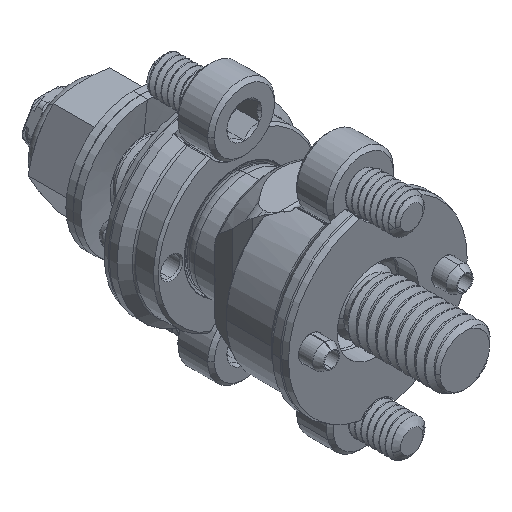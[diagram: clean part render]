
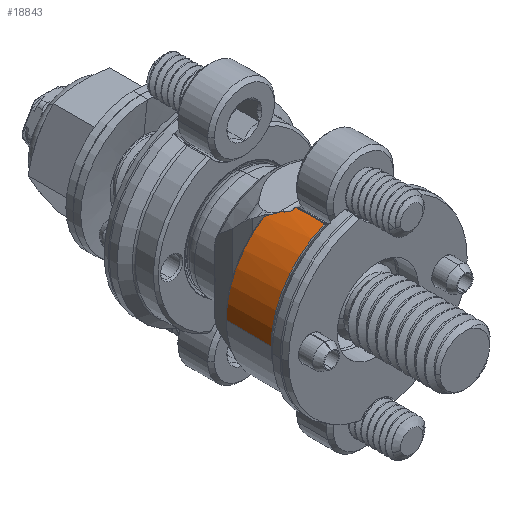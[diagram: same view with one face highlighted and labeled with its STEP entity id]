
A CAD part, isometric view. The second image highlights one B-rep face of the part: STEP entity #18843.
In plain terms, the highlighted cylindrical face has radius 7 mm (diameter 14 mm), a partial arc.
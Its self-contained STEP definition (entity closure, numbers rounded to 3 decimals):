
#34 = CARTESIAN_POINT ( 'NONE',  ( -7., 0., 0. ) ) ;
#220 = CARTESIAN_POINT ( 'NONE',  ( -2.593, -4.605, 6.502 ) ) ;
#1383 = LINE ( 'NONE', #58971, #3474 ) ;
#2020 = VECTOR ( 'NONE', #29473, 1000. ) ;
#2478 = ORIENTED_EDGE ( 'NONE', *, *, #6314, .F. ) ;
#2482 = CARTESIAN_POINT ( 'NONE',  ( -2.598, -4.6, 6.5 ) ) ;
#2526 = ORIENTED_EDGE ( 'NONE', *, *, #40021, .F. ) ;
#3063 = VERTEX_POINT ( 'NONE', #9718 ) ;
#3474 = VECTOR ( 'NONE', #5588, 1000. ) ;
#3793 = CYLINDRICAL_SURFACE ( 'NONE', #37237, 7. ) ;
#4228 = DIRECTION ( 'NONE',  ( 0., 0., -1. ) ) ;
#4567 = CARTESIAN_POINT ( 'NONE',  ( 0., -4.158, 0. ) ) ;
#5588 = DIRECTION ( 'NONE',  ( 0., 1., 0. ) ) ;
#6314 = EDGE_CURVE ( 'NONE', #62906, #3063, #31597, .T. ) ;
#7304 = CARTESIAN_POINT ( 'NONE',  ( -3.1, 0., 6.276 ) ) ;
#7804 = ORIENTED_EDGE ( 'NONE', *, *, #27450, .T. ) ;
#7818 = CARTESIAN_POINT ( 'NONE',  ( -3.866, -3.3, 5.836 ) ) ;
#8280 = CARTESIAN_POINT ( 'NONE',  ( -3.626, -3.587, 5.995 ) ) ;
#8323 = ORIENTED_EDGE ( 'NONE', *, *, #31808, .T. ) ;
#8594 = DIRECTION ( 'NONE',  ( -1., 0., 0. ) ) ;
#9207 = CARTESIAN_POINT ( 'NONE',  ( -2.583, -4.616, 6.506 ) ) ;
#9718 = CARTESIAN_POINT ( 'NONE',  ( -3.1, -4.219, 6.276 ) ) ;
#9862 = CARTESIAN_POINT ( 'NONE',  ( -2.598, -4.6, 6.5 ) ) ;
#10433 = B_SPLINE_CURVE_WITH_KNOTS ( 'NONE', 3,
 ( #18296, #19248, #58240, #28517, #14447, #33935 ),
 .UNSPECIFIED., .F., .F.,
 ( 4, 2, 4 ),
 ( 0., 0., 0.001 ),
 .UNSPECIFIED. ) ;
#12481 = VERTEX_POINT ( 'NONE', #33047 ) ;
#13483 = AXIS2_PLACEMENT_3D ( 'NONE', #23427, #13838, #14465 ) ;
#13715 = ORIENTED_EDGE ( 'NONE', *, *, #23605, .F. ) ;
#13838 = DIRECTION ( 'NONE',  ( 0., 1., 0. ) ) ;
#14255 = CARTESIAN_POINT ( 'NONE',  ( -7., -3.3, 0. ) ) ;
#14447 = CARTESIAN_POINT ( 'NONE',  ( -2.816, -4.6, 6.409 ) ) ;
#14465 = DIRECTION ( 'NONE',  ( -1., 0., 0. ) ) ;
#14688 = VECTOR ( 'NONE', #26794, 1000. ) ;
#16043 = B_SPLINE_CURVE_WITH_KNOTS ( 'NONE', 3,
 ( #17876, #61962, #8280, #28419 ),
 .UNSPECIFIED., .F., .F.,
 ( 4, 4 ),
 ( 0., 0.001 ),
 .UNSPECIFIED. ) ;
#16547 = EDGE_LOOP ( 'NONE', ( #19113, #32932, #50583, #18544, #2526, #13715, #2478, #7804, #8323, #28528 ) ) ;
#17500 = CARTESIAN_POINT ( 'NONE',  ( -2.719, -4.6, 6.45 ) ) ;
#17876 = CARTESIAN_POINT ( 'NONE',  ( -3.118, -4.158, 6.267 ) ) ;
#18296 = CARTESIAN_POINT ( 'NONE',  ( -3.1, -4.219, 6.276 ) ) ;
#18544 = ORIENTED_EDGE ( 'NONE', *, *, #53199, .T. ) ;
#18843 = ADVANCED_FACE ( 'NONE', ( #62277 ), #3793, .T. ) ;
#19113 = ORIENTED_EDGE ( 'NONE', *, *, #48901, .F. ) ;
#19248 = CARTESIAN_POINT ( 'NONE',  ( -3.1, -4.325, 6.276 ) ) ;
#19661 = AXIS2_PLACEMENT_3D ( 'NONE', #4567, #24087, #43569 ) ;
#19891 = VERTEX_POINT ( 'NONE', #35964 ) ;
#21472 = EDGE_CURVE ( 'NONE', #47642, #58093, #1383, .T. ) ;
#22852 = VERTEX_POINT ( 'NONE', #17500 ) ;
#22992 = CARTESIAN_POINT ( 'NONE',  ( -2.583, -6.996, 6.506 ) ) ;
#23427 = CARTESIAN_POINT ( 'NONE',  ( 0., -6.996, 0. ) ) ;
#23605 = EDGE_CURVE ( 'NONE', #3063, #22852, #10433, .T. ) ;
#24087 = DIRECTION ( 'NONE',  ( 0., -1., 0. ) ) ;
#26794 = DIRECTION ( 'NONE',  ( 0., -1., 0. ) ) ;
#27195 = CARTESIAN_POINT ( 'NONE',  ( -3.1, -4.158, 6.276 ) ) ;
#27450 = EDGE_CURVE ( 'NONE', #62906, #19891, #62525, .T. ) ;
#28419 = CARTESIAN_POINT ( 'NONE',  ( -3.866, -3.3, 5.836 ) ) ;
#28517 = CARTESIAN_POINT ( 'NONE',  ( -2.911, -4.562, 6.366 ) ) ;
#28528 = ORIENTED_EDGE ( 'NONE', *, *, #34072, .F. ) ;
#28709 = CARTESIAN_POINT ( 'NONE',  ( -2.588, -4.611, 6.504 ) ) ;
#29473 = DIRECTION ( 'NONE',  ( 0., 1., 0. ) ) ;
#31597 = LINE ( 'NONE', #7304, #14688 ) ;
#31808 = EDGE_CURVE ( 'NONE', #19891, #44331, #16043, .T. ) ;
#32932 = ORIENTED_EDGE ( 'NONE', *, *, #60627, .T. ) ;
#32999 = DIRECTION ( 'NONE',  ( 0., 1., 0. ) ) ;
#33047 = CARTESIAN_POINT ( 'NONE',  ( -7., -6.996, 0. ) ) ;
#33935 = CARTESIAN_POINT ( 'NONE',  ( -2.719, -4.6, 6.45 ) ) ;
#34072 = EDGE_CURVE ( 'NONE', #41378, #44331, #36162, .T. ) ;
#34933 = CIRCLE ( 'NONE', #13483, 7. ) ;
#35964 = CARTESIAN_POINT ( 'NONE',  ( -3.118, -4.158, 6.267 ) ) ;
#36162 = CIRCLE ( 'NONE', #60671, 7. ) ;
#36972 = AXIS2_PLACEMENT_3D ( 'NONE', #57304, #32999, #4228 ) ;
#37237 = AXIS2_PLACEMENT_3D ( 'NONE', #37983, #58137, #8594 ) ;
#37983 = CARTESIAN_POINT ( 'NONE',  ( 0., 0., 0. ) ) ;
#40021 = EDGE_CURVE ( 'NONE', #22852, #62081, #40054, .T. ) ;
#40054 = CIRCLE ( 'NONE', #36972, 7. ) ;
#41378 = VERTEX_POINT ( 'NONE', #14255 ) ;
#42599 = CARTESIAN_POINT ( 'NONE',  ( 0., -3.3, 0. ) ) ;
#43569 = DIRECTION ( 'NONE',  ( 0., 0., 1. ) ) ;
#43848 = LINE ( 'NONE', #34, #2020 ) ;
#44331 = VERTEX_POINT ( 'NONE', #7818 ) ;
#47642 = VERTEX_POINT ( 'NONE', #22992 ) ;
#47717 = DIRECTION ( 'NONE',  ( 0., 1., 0. ) ) ;
#48901 = EDGE_CURVE ( 'NONE', #12481, #41378, #43848, .T. ) ;
#50583 = ORIENTED_EDGE ( 'NONE', *, *, #21472, .T. ) ;
#50706 = CARTESIAN_POINT ( 'NONE',  ( -2.583, -4.616, 6.506 ) ) ;
#52187 = B_SPLINE_CURVE_WITH_KNOTS ( 'NONE', 3,
 ( #9207, #28709, #220, #9862 ),
 .UNSPECIFIED., .F., .F.,
 ( 4, 4 ),
 ( 0., 0. ),
 .UNSPECIFIED. ) ;
#53199 = EDGE_CURVE ( 'NONE', #58093, #62081, #52187, .T. ) ;
#57304 = CARTESIAN_POINT ( 'NONE',  ( 0., -4.6, 0. ) ) ;
#58093 = VERTEX_POINT ( 'NONE', #50706 ) ;
#58137 = DIRECTION ( 'NONE',  ( 0., 1., 0. ) ) ;
#58240 = CARTESIAN_POINT ( 'NONE',  ( -3.054, -4.426, 6.299 ) ) ;
#58971 = CARTESIAN_POINT ( 'NONE',  ( -2.583, 0., 6.506 ) ) ;
#60627 = EDGE_CURVE ( 'NONE', #12481, #47642, #34933, .T. ) ;
#60671 = AXIS2_PLACEMENT_3D ( 'NONE', #42599, #47717, #62096 ) ;
#61962 = CARTESIAN_POINT ( 'NONE',  ( -3.377, -3.872, 6.139 ) ) ;
#62081 = VERTEX_POINT ( 'NONE', #2482 ) ;
#62096 = DIRECTION ( 'NONE',  ( -1., 0., 0. ) ) ;
#62277 = FACE_OUTER_BOUND ( 'NONE', #16547, .T. ) ;
#62525 = CIRCLE ( 'NONE', #19661, 7. ) ;
#62906 = VERTEX_POINT ( 'NONE', #27195 ) ;
